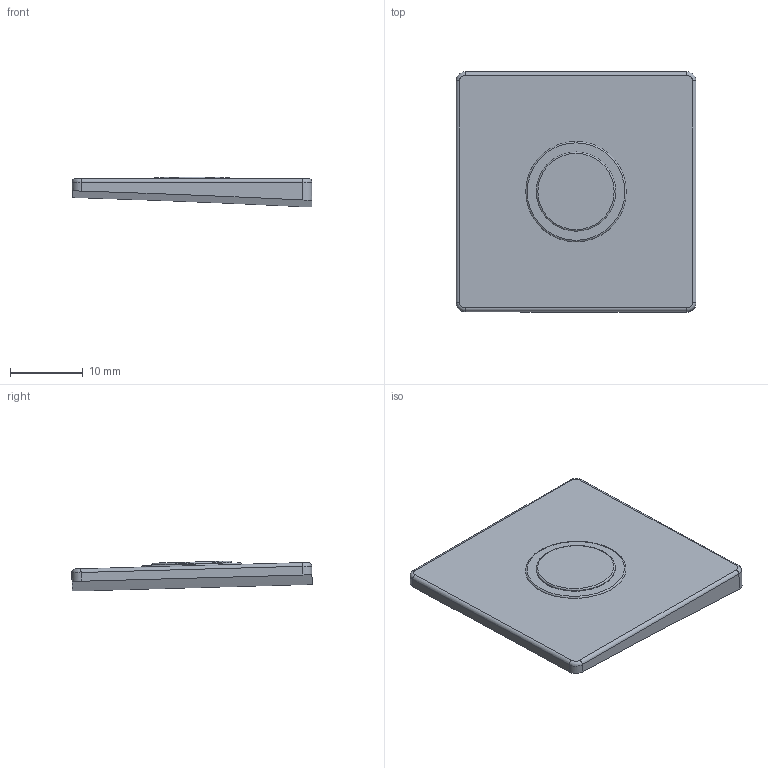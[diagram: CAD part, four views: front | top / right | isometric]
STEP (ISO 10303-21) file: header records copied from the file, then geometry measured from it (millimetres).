
FILE_DESCRIPTION(/* description */ ('','CAx-IF Rec.Pracs.---Representation and Presentation of Product Manufacturing Information (PMI)---4.0---2014-10-13'),/* implementation_level */ '2;1');
FILE_NAME(/* name */ '20thhuckinshatch7.step',/* time_stamp */ '2025-03-21T21:02:47+11:00',/* author */ (''),/* organization */ (''),/* preprocessor_version */ 'ST-DEVELOPER v20',/* originating_system */ 'Autodesk Translation Framework v13.20.0.188',/* authorisation */ '');
FILE_SCHEMA (('AP242_MANAGED_MODEL_BASED_3D_ENGINEERING_MIM_LF { 1 0 10303 442 1 1 4 }'));
Length unit declared in the file: millimetre
Products named in the file (1): HuckinsDeckParts
Bounding box: 33.02 x 33.08 x 4.12 mm (x, y, z)
Volume: 2571.8 mm3; surface area: 2467.4 mm2
Topology: 1 solids, 1 shells, 23 faces, 48 edges, 29 vertices
Faces by surface type: cylinder 10, plane 7, torus 6
Full cylindrical faces by diameter (mm): 10.904 x1
Entity records: 699 total; most frequent: CARTESIAN_POINT 146, DIRECTION 117, ORIENTED_EDGE 96, AXIS2_PLACEMENT_3D 49, EDGE_CURVE 48, VERTEX_POINT 29, EDGE_LOOP 25, CIRCLE 25
